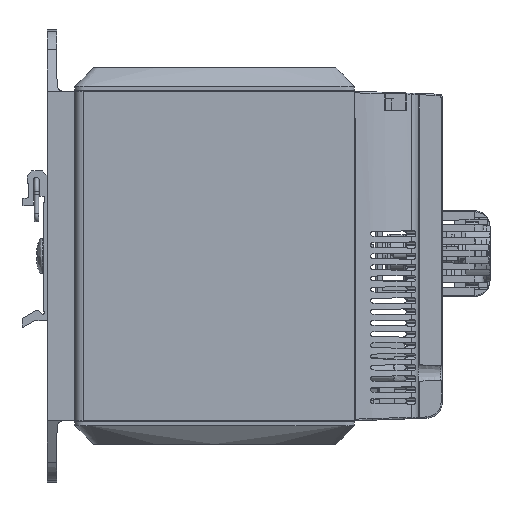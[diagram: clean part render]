
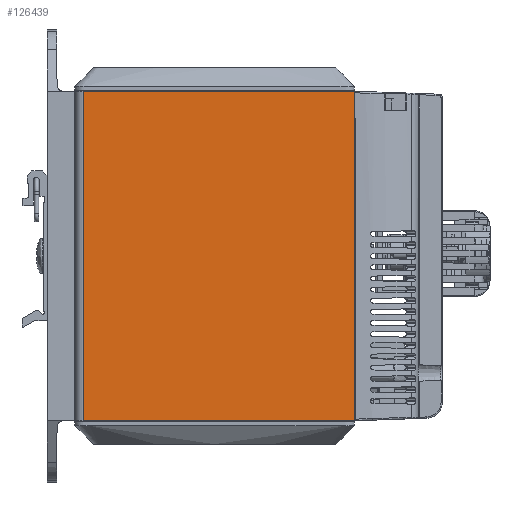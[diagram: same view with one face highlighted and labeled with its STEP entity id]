
A CAD part, front view. The second image highlights one B-rep face of the part: STEP entity #126439.
In plain terms, the highlighted planar face has unit normal (0.002, -1, 0).
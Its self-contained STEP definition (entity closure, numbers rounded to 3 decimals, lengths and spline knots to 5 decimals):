
#14314=ORIENTED_EDGE('',*,*,#48318,.T.);
#14315=ORIENTED_EDGE('',*,*,#48319,.F.);
#14316=ORIENTED_EDGE('',*,*,#48320,.F.);
#14317=ORIENTED_EDGE('',*,*,#48321,.T.);
#48318=EDGE_CURVE('',#65695,#65696,#78596,.T.);
#48319=EDGE_CURVE('',#65697,#65696,#78597,.T.);
#48320=EDGE_CURVE('',#65698,#65697,#78598,.T.);
#48321=EDGE_CURVE('',#65698,#65695,#78599,.T.);
#65695=VERTEX_POINT('',#192326);
#65696=VERTEX_POINT('',#192327);
#65697=VERTEX_POINT('',#192329);
#65698=VERTEX_POINT('',#192331);
#78596=LINE('',#192325,#93138);
#78597=LINE('',#192328,#93139);
#78598=LINE('',#192330,#93140);
#78599=LINE('',#192332,#93141);
#93138=VECTOR('',#149819,1.);
#93139=VECTOR('',#149820,1.);
#93140=VECTOR('',#149821,1.);
#93141=VECTOR('',#149822,1.);
#105874=EDGE_LOOP('',(#14314,#14315,#14316,#14317));
#113821=FACE_BOUND('',#105874,.T.);
#121179=PLANE('',#135485);
#126439=ADVANCED_FACE('',(#113821),#121179,.T.);
#135485=AXIS2_PLACEMENT_3D('',#192324,#149817,#149818);
#149817=DIRECTION('',(0.002,-1.,0.));
#149818=DIRECTION('',(1.,0.002,0.));
#149819=DIRECTION('',(1.,0.002,0.));
#149820=DIRECTION('',(0.,0.,-1.));
#149821=DIRECTION('',(1.,0.002,0.));
#149822=DIRECTION('',(0.,0.,-1.));
#192324=CARTESIAN_POINT('',(-0.088,-0.044,0.0925));
#192325=CARTESIAN_POINT('',(-0.088,-0.044,-0.011));
#192326=CARTESIAN_POINT('',(-0.08517,-0.044,-0.011));
#192327=CARTESIAN_POINT('',(0.,-0.04385,-0.011));
#192328=CARTESIAN_POINT('',(0.,-0.04385,0.0925));
#192329=CARTESIAN_POINT('',(0.,-0.04385,0.0925));
#192330=CARTESIAN_POINT('',(-0.088,-0.044,0.0925));
#192331=CARTESIAN_POINT('',(-0.08517,-0.044,0.0925));
#192332=CARTESIAN_POINT('',(-0.08517,-0.044,0.0925));
